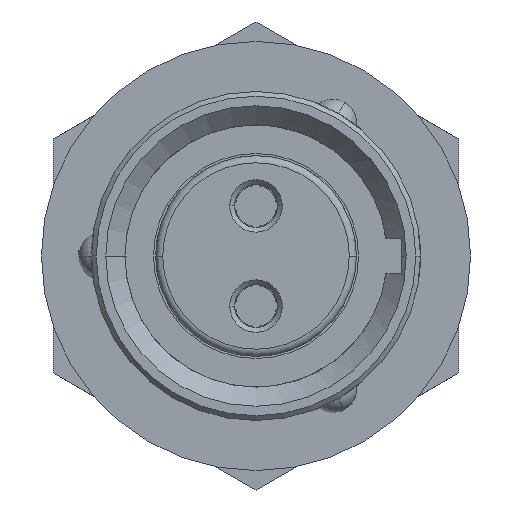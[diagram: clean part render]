
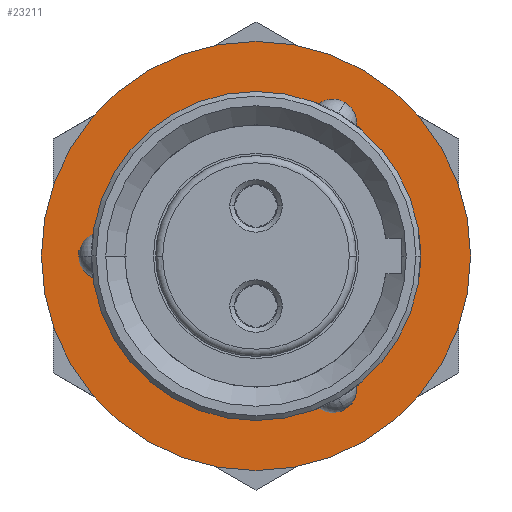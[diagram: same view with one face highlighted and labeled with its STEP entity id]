
A CAD part, left-side view. The second image highlights one B-rep face of the part: STEP entity #23211.
In plain terms, the highlighted planar face has unit normal (-1, 0, 0) as drawn and (1, 0, 0) by its records, which use the part's own axes.
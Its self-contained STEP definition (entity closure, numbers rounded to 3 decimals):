
#15336=CARTESIAN_POINT('',(1.5,0.,0.));
#15337=DIRECTION('',(-1.,0.,0.));
#15338=DIRECTION('',(0.,1.,0.));
#15339=AXIS2_PLACEMENT_3D('',#15336,#15337,#15338);
#15341=CARTESIAN_POINT('',(1.5,0.,0.));
#15342=DIRECTION('',(-1.,0.,0.));
#15343=DIRECTION('',(0.,-1.,0.));
#15344=AXIS2_PLACEMENT_3D('',#15341,#15342,#15343);
#15346=CARTESIAN_POINT('',(1.5,0.,0.));
#15347=DIRECTION('',(1.,0.,0.));
#15348=DIRECTION('',(0.,1.,0.));
#15349=AXIS2_PLACEMENT_3D('',#15346,#15347,#15348);
#15351=CARTESIAN_POINT('',(1.5,0.,0.));
#15352=DIRECTION('',(1.,0.,0.));
#15353=DIRECTION('',(0.,-1.,0.));
#15354=AXIS2_PLACEMENT_3D('',#15351,#15352,#15353);
#21140=CARTESIAN_POINT('',(1.5,-6.9,0.));
#21141=VERTEX_POINT('',#21140);
#21142=CARTESIAN_POINT('',(1.5,6.9,0.));
#21143=VERTEX_POINT('',#21142);
#21154=CARTESIAN_POINT('',(1.5,9.,0.));
#21155=CARTESIAN_POINT('',(1.5,-9.,0.));
#21156=VERTEX_POINT('',#21154);
#21157=VERTEX_POINT('',#21155);
#23196=CARTESIAN_POINT('',(1.5,0.,0.));
#23197=DIRECTION('',(1.,0.,0.));
#23198=DIRECTION('',(0.,-1.,0.));
#23199=AXIS2_PLACEMENT_3D('',#23196,#23197,#23198);
#23200=PLANE('',#23199);
#23201=ORIENTED_EDGE('',*,*,#23178,.T.);
#23202=ORIENTED_EDGE('',*,*,#23189,.T.);
#23203=EDGE_LOOP('',(#23201,#23202));
#23204=FACE_OUTER_BOUND('',#23203,.F.);
#23206=ORIENTED_EDGE('',*,*,#23205,.T.);
#23208=ORIENTED_EDGE('',*,*,#23207,.T.);
#23209=EDGE_LOOP('',(#23206,#23208));
#23210=FACE_BOUND('',#23209,.F.);
#15340=CIRCLE('',#15339,9.);
#15345=CIRCLE('',#15344,9.);
#15350=CIRCLE('',#15349,6.9);
#15355=CIRCLE('',#15354,6.9);
#23178=EDGE_CURVE('',#21156,#21157,#15340,.T.);
#23189=EDGE_CURVE('',#21157,#21156,#15345,.T.);
#23205=EDGE_CURVE('',#21143,#21141,#15350,.T.);
#23207=EDGE_CURVE('',#21141,#21143,#15355,.T.);
#23211=ADVANCED_FACE('',(#23204,#23210),#23200,.T.);
